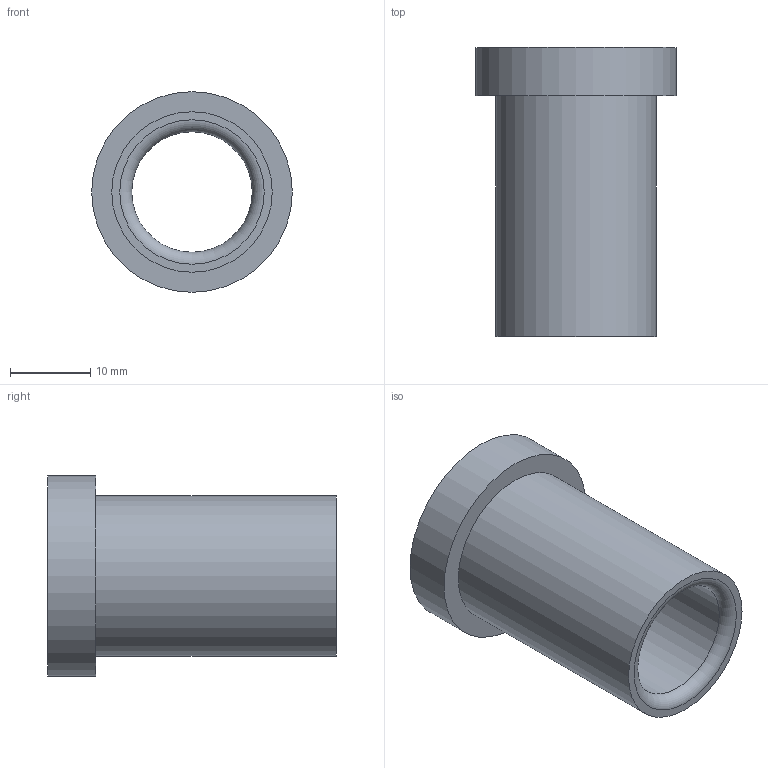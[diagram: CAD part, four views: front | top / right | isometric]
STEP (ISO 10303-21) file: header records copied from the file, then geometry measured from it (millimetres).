
FILE_DESCRIPTION(/* description */ ('STEP AP214'),/* implementation_level */ '2;1');
FILE_NAME(/* name */ '03_12_17910',/* time_stamp */ '2023-06-15T11:35:26+02:00',/* author */ ('License CC BY-ND 4.0'),/* organization */ ('CADENAS'),/* preprocessor_version */ 'ST-DEVELOPER v19.3',/* originating_system */ 'PARTsolutions',/* authorisation */ ' ');
FILE_SCHEMA (('AUTOMOTIVE_DESIGN {1 0 10303 214 3 1 1}'));
Length unit declared in the file: millimetre
Products named in the file (1): VA_Bushing_17910
Bounding box: 25 x 36 x 25 mm (x, y, z)
Volume: 5856 mm3; surface area: 4634.7 mm2
Topology: 1 solids, 1 shells, 10 faces, 16 edges, 10 vertices
Faces by surface type: cylinder 4, plane 4, torus 2
Full cylindrical faces by diameter (mm): 15 x1, 15.6 x1, 20 x1, 25 x1
Entity records: 302 total; most frequent: DIRECTION 42, CARTESIAN_POINT 31, AXIS2_PLACEMENT_3D 21, ORIENTED_EDGE 20, EDGE_LOOP 20, FACE_BOUND 20, EDGE_CURVE 10, VERTEX_POINT 10
